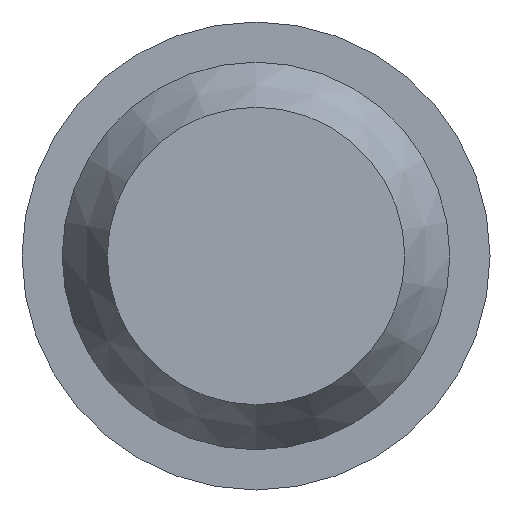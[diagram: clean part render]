
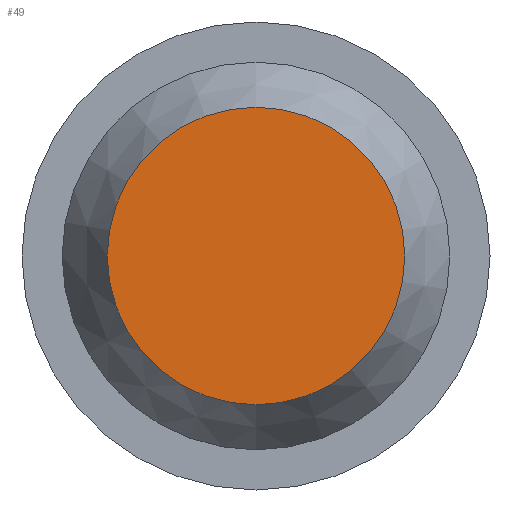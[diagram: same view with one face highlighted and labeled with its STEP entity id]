
A CAD part, front view. The second image highlights one B-rep face of the part: STEP entity #49.
In plain terms, the highlighted planar face has unit normal (0, -1, 0).
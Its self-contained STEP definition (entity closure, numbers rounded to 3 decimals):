
#18 = EDGE_CURVE ( 'NONE', #205, #205, #165, .T. ) ;
#30 = AXIS2_PLACEMENT_3D ( 'NONE', #84, #85, #86 ) ;
#37 = AXIS2_PLACEMENT_3D ( 'NONE', #103, #99, #101 ) ;
#49 = ADVANCED_FACE ( 'NONE', ( #158 ), #102, .F. ) ;
#65 = CARTESIAN_POINT ( 'NONE',  ( 0., -10., 1.908 ) ) ;
#84 = CARTESIAN_POINT ( 'NONE',  ( 0., -10., 0. ) ) ;
#85 = DIRECTION ( 'NONE',  ( 0., 1., 0. ) ) ;
#86 = DIRECTION ( 'NONE',  ( 0., 0., 1. ) ) ;
#99 = DIRECTION ( 'NONE',  ( 0., 1., 0. ) ) ;
#101 = DIRECTION ( 'NONE',  ( 0., 0., 1. ) ) ;
#102 = PLANE ( 'NONE',  #37 ) ;
#103 = CARTESIAN_POINT ( 'NONE',  ( -1.908, -10., 0. ) ) ;
#158 = FACE_OUTER_BOUND ( 'NONE', #184, .T. ) ;
#165 = CIRCLE ( 'NONE', #30, 1.908 ) ;
#184 = EDGE_LOOP ( 'NONE', ( #220 ) ) ;
#205 = VERTEX_POINT ( 'NONE', #65 ) ;
#220 = ORIENTED_EDGE ( 'NONE', *, *, #18, .F. ) ;
